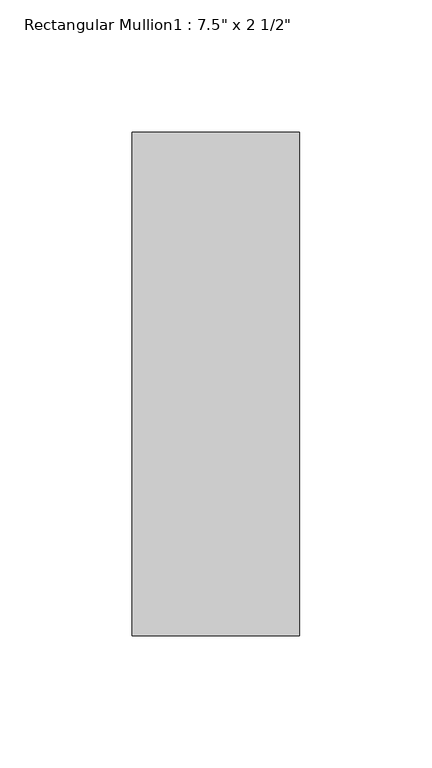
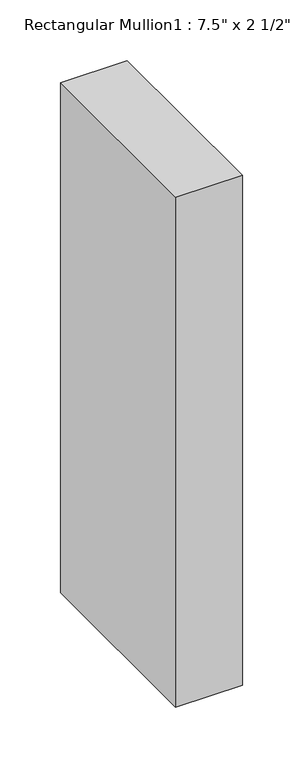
"""IFC4 building model written with IfcOpenShell, lengths in millimetres: member geometry."""

from ifc_helpers import new_model, si_unit, frame, origin, place, context, project, spatial, polyline, outline, extrude, source, transform, mapped, element, save


def member_0e55e2c5(model_context):
    return source(origin(), model_context, "Body", "SweptSolid", [
        extrude(outline(polyline([(31.75, 165.1), (31.75, -25.4), (-31.75, -25.4), (-31.75, 165.1), (31.75, 165.1)])), frame((0.0, 0.0, -514.35), z_axis=(0.0, 0.0, 1.0), x_axis=(1.0, 0.0, 0.0)), (0.0, 0.0, 1.0), 514.35),
    ])


if __name__ == "__main__":
    model = new_model("IFC4")
    model_context = context("Model", 3, world=origin())
    ifc_project = project(units=[si_unit("LENGTHUNIT", "METRE", prefix="MILLI")], contexts=[model_context])
    site = spatial("IfcSite", under=ifc_project)
    building = spatial("IfcBuilding", under=site)
    placement = place(None, origin())
    member_shape = member_0e55e2c5(model_context)
    element("IfcMember", 1, ObjectType="Rectangular Mullion1 : 7.5\" x 2 1/2\"", at=placement, inside=building, context=model_context, shape_type="MappedRepresentation", body=[
        mapped(member_shape, transform((0.0, 0.0, 0.0), x_axis=(1.0, 0.0, 0.0), y_axis=(0.0, 1.0, 0.0), z_axis=(0.0, 0.0, 1.0))),
    ])
    save(model, "model.ifc")
